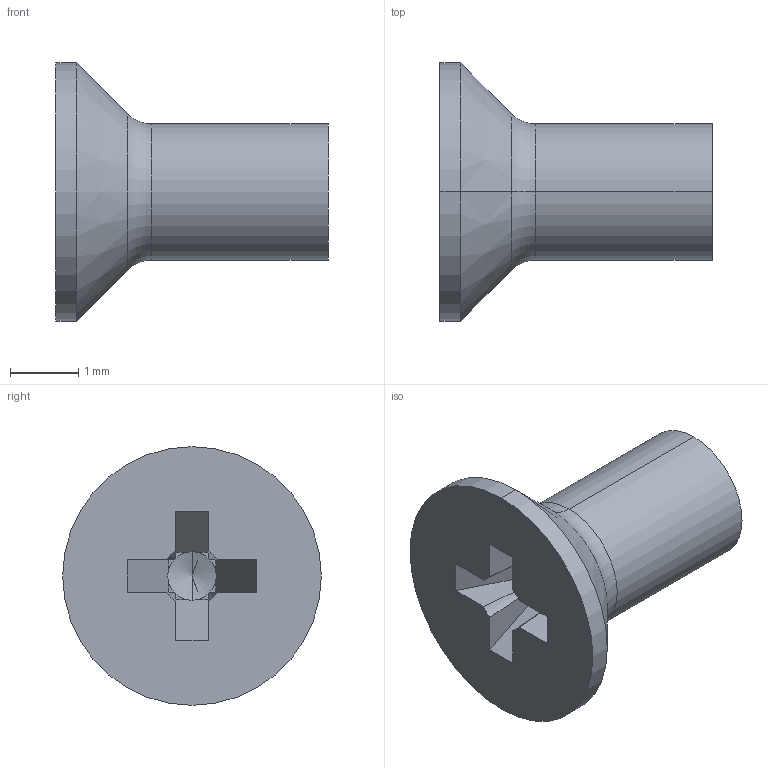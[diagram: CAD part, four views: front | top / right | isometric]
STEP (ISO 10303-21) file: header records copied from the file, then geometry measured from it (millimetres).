
FILE_DESCRIPTION (( 'STEP AP214' ), '1' );
FILE_NAME ('Screw (M2, 4mm).STEP', '2019-02-26T03:09:24', ( '' ), ( '' ), 'SwSTEP 2.0', 'SolidWorks 2018', '' );
FILE_SCHEMA (( 'AUTOMOTIVE_DESIGN' ));
Length unit declared in the file: millimetre
Products named in the file (1): Screw (M2, 4mm)
Bounding box: 4 x 3.8 x 3.8 mm (x, y, z)
Volume: 17.1 mm3; surface area: 52.3 mm2
Topology: 1 solids, 1 shells, 41 faces, 94 edges, 54 vertices
Faces by surface type: plane 22, cone 13, cylinder 4, torus 2
Entity records: 1166 total; most frequent: CARTESIAN_POINT 227, DIRECTION 197, ORIENTED_EDGE 184, EDGE_CURVE 92, AXIS2_PLACEMENT_3D 76, VERTEX_POINT 54, VECTOR 45, LINE 45
